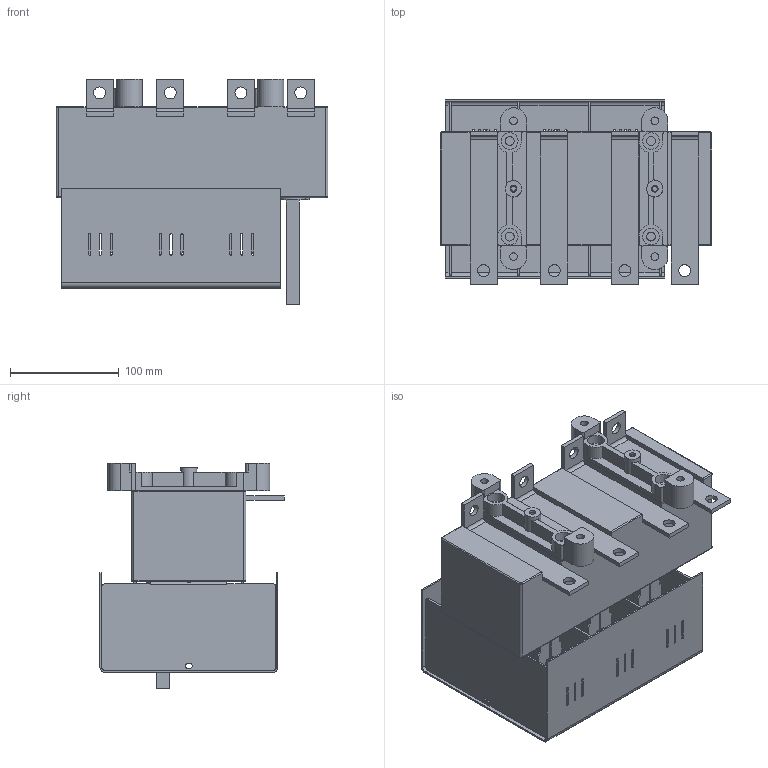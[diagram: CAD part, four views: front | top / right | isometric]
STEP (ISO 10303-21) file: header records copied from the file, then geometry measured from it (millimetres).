
FILE_DESCRIPTION(/* description */ (''),/* implementation_level */ '2;1');
FILE_NAME(/* name */ 'RAB 1 P3 NB.stp',/* time_stamp */ '2021-08-19T12:49:07+02:00',/* author */ (''),/* organization */ (''),/* preprocessor_version */ 'ST-DEVELOPER v18.1',/* originating_system */ 'SIEMENS PLM Software NX 1965',/* authorisation */ '');
FILE_SCHEMA (('AUTOMOTIVE_DESIGN { 1 0 10303 214 3 1 1 1 }'));
Length unit declared in the file: millimetre
Products named in the file (1): RAB 1 P3 NB_stp
Bounding box: 250 x 169.79 x 207.3 mm (x, y, z)
Volume: 2445464.7 mm3; surface area: 433222 mm2
Topology: 1 solids, 1 shells, 1018 faces, 2822 edges, 1838 vertices
Faces by surface type: plane 668, cylinder 342, bspline 5, torus 3
Full cylindrical faces by diameter (mm): 4.8 x2, 6.2 x2, 7 x4, 8.2 x4, 11 x8, 14 x4, 15 x2, 15.5 x4
Entity records: 32575 total; most frequent: CARTESIAN_POINT 5758, ORIENTED_EDGE 5576, DIRECTION 5528, EDGE_CURVE 2788, LINE 2064, VECTOR 2064, VERTEX_POINT 1834, AXIS2_PLACEMENT_3D 1732
